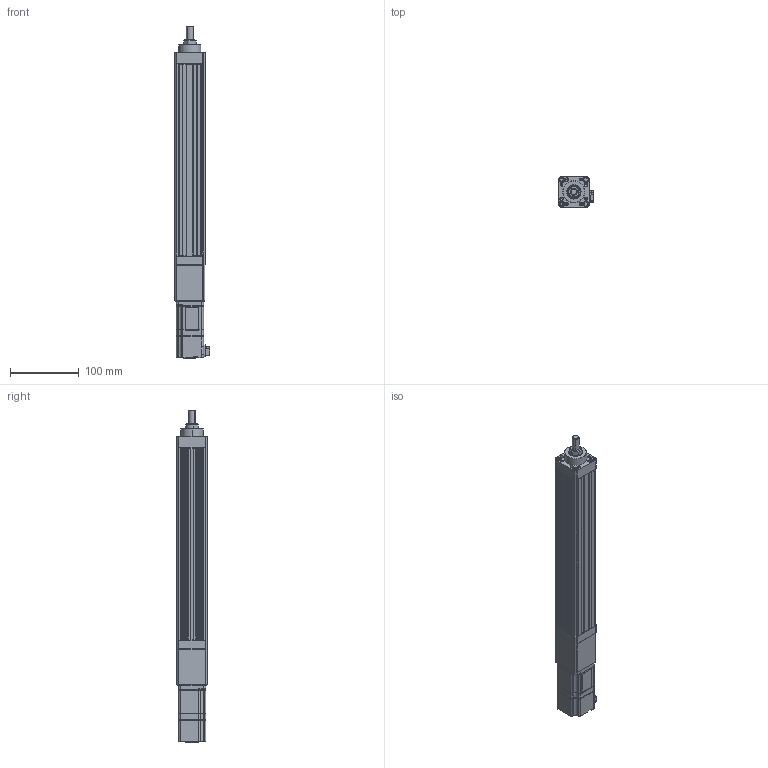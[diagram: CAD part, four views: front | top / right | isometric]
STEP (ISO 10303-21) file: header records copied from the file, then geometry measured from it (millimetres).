
FILE_DESCRIPTION (( 'STEP AP203' ), '1' );
FILE_NAME ('ANS045-S200-05(10)-W10-M.STEP', '2019-02-14T02:53:43', ( 'user' ), ( '' ), 'SwSTEP 2.0', 'SolidWorks 2013', '' );
FILE_SCHEMA (( 'CONFIG_CONTROL_DESIGN' ));
Length unit declared in the file: millimetre
Products named in the file (4): ANS045 S200 VER2; ANS045 ROD ST200 M; SGMJV_01A_A21; ANS045-S200-05(10)-W10-M
Assembly tree (3 placements, depth 2):
  ANS045-S200-05(10)-W10-M
    ANS045 S200 VER2
    ANS045 ROD ST200 M
    SGMJV_01A_A21
Bounding box: 51.3 x 45 x 482.1 mm (x, y, z)
Volume: 611098.9 mm3; surface area: 182483.8 mm2
Topology: 3 solids, 7 shells, 895 faces, 2251 edges, 1404 vertices
Faces by surface type: plane 480, cylinder 305, cone 108, bspline 2
Entity records: 26713 total; most frequent: CARTESIAN_POINT 5040, ORIENTED_EDGE 4438, DIRECTION 4413, EDGE_CURVE 2219, VECTOR 1507, LINE 1507, AXIS2_PLACEMENT_3D 1453, VERTEX_POINT 1404
